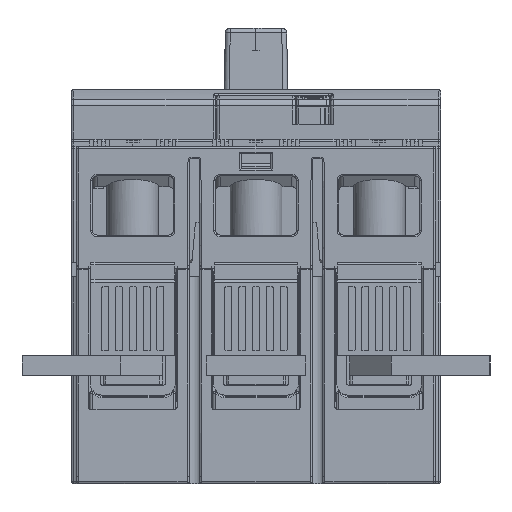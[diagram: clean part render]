
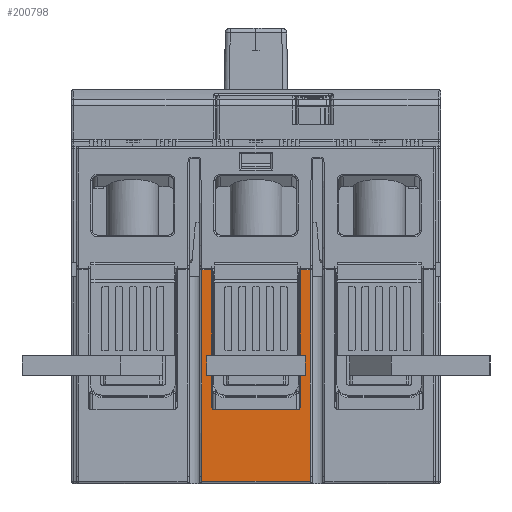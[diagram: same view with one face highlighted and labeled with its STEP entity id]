
A CAD part, front view. The second image highlights one B-rep face of the part: STEP entity #200798.
In plain terms, the highlighted planar face has unit normal (0, -1, 0).
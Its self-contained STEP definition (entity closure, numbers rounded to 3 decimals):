
#9664 = VERTEX_POINT ( 'NONE', #34334 ) ;
#9676 = VERTEX_POINT ( 'NONE', #34344 ) ;
#9678 = VERTEX_POINT ( 'NONE', #34346 ) ;
#9682 = VERTEX_POINT ( 'NONE', #34348 ) ;
#10039 = VERTEX_POINT ( 'NONE', #34598 ) ;
#10054 = VERTEX_POINT ( 'NONE', #34610 ) ;
#10098 = VERTEX_POINT ( 'NONE', #34640 ) ;
#10104 = VERTEX_POINT ( 'NONE', #34644 ) ;
#10170 = VERTEX_POINT ( 'NONE', #34690 ) ;
#10174 = VERTEX_POINT ( 'NONE', #34692 ) ;
#34334 = CARTESIAN_POINT ( 'NONE',  ( -16.933, -70.726, 15.87 ) ) ;
#34344 = CARTESIAN_POINT ( 'NONE',  ( -38.933, -70.726, -27.13 ) ) ;
#34346 = CARTESIAN_POINT ( 'NONE',  ( -38.933, -70.726, 15.87 ) ) ;
#34348 = CARTESIAN_POINT ( 'NONE',  ( -16.933, -70.726, -27.13 ) ) ;
#34598 = CARTESIAN_POINT ( 'NONE',  ( -36.233, -70.726, -12.63 ) ) ;
#34610 = CARTESIAN_POINT ( 'NONE',  ( -19.633, -70.726, -12.63 ) ) ;
#34640 = CARTESIAN_POINT ( 'NONE',  ( -36.933, -70.726, 15.87 ) ) ;
#34644 = CARTESIAN_POINT ( 'NONE',  ( -36.933, -70.726, -11.93 ) ) ;
#34690 = CARTESIAN_POINT ( 'NONE',  ( -18.933, -70.726, 15.87 ) ) ;
#34692 = CARTESIAN_POINT ( 'NONE',  ( -18.933, -70.726, -11.93 ) ) ;
#57103 = EDGE_LOOP ( 'NONE', ( #217471, #217473, #217475, #217477, #217479, #217482, #217484, #217487, #217490, #217493 ) ) ;
#58729 = LINE ( 'NONE', #58740, #59493 ) ;
#58740 = CARTESIAN_POINT ( 'NONE',  ( -38.933, -70.726, 17.37 ) ) ;
#58741 = DIRECTION ( 'NONE',  ( 0., 0., 1. ) ) ;
#58755 = LINE ( 'NONE', #58761, #59489 ) ;
#58761 = CARTESIAN_POINT ( 'NONE',  ( -16.933, -70.726, 17.37 ) ) ;
#58762 = DIRECTION ( 'NONE',  ( 0., 0., -1. ) ) ;
#59489 = VECTOR ( 'NONE', #58762, 1000. ) ;
#59493 = VECTOR ( 'NONE', #58741, 1000. ) ;
#60075 = VECTOR ( 'NONE', #62616, 1000. ) ;
#60135 = CIRCLE ( 'NONE', #60143, 0.7 ) ;
#60140 = VECTOR ( 'NONE', #62813, 1000. ) ;
#60143 = AXIS2_PLACEMENT_3D ( 'NONE', #62836, #62838, #62840 ) ;
#60230 = CIRCLE ( 'NONE', #60233, 0.7 ) ;
#60233 = AXIS2_PLACEMENT_3D ( 'NONE', #63054, #63055, #63056 ) ;
#60237 = VECTOR ( 'NONE', #63076, 1000. ) ;
#60239 = VECTOR ( 'NONE', #63067, 1000. ) ;
#60240 = VECTOR ( 'NONE', #63085, 1000. ) ;
#60244 = VECTOR ( 'NONE', #63092, 1000. ) ;
#62604 = CARTESIAN_POINT ( 'NONE',  ( -65.433, -70.726, -12.63 ) ) ;
#62606 = LINE ( 'NONE', #62604, #60075 ) ;
#62616 = DIRECTION ( 'NONE',  ( 1., 0., 0. ) ) ;
#62800 = LINE ( 'NONE', #62812, #60140 ) ;
#62812 = CARTESIAN_POINT ( 'NONE',  ( -65.433, -70.726, 15.87 ) ) ;
#62813 = DIRECTION ( 'NONE',  ( 1., 0., 0. ) ) ;
#62836 = CARTESIAN_POINT ( 'NONE',  ( -36.233, -70.726, -11.93 ) ) ;
#62838 = DIRECTION ( 'NONE',  ( 0., -1., 0. ) ) ;
#62840 = DIRECTION ( 'NONE',  ( 0., 0., 1. ) ) ;
#63054 = CARTESIAN_POINT ( 'NONE',  ( -19.633, -70.726, -11.93 ) ) ;
#63055 = DIRECTION ( 'NONE',  ( 0., -1., 0. ) ) ;
#63056 = DIRECTION ( 'NONE',  ( 0., 0., -1. ) ) ;
#63058 = LINE ( 'NONE', #63065, #60239 ) ;
#63062 = LINE ( 'NONE', #63069, #60237 ) ;
#63065 = CARTESIAN_POINT ( 'NONE',  ( -65.433, -70.726, 15.87 ) ) ;
#63067 = DIRECTION ( 'NONE',  ( 1., 0., 0. ) ) ;
#63069 = CARTESIAN_POINT ( 'NONE',  ( -18.933, -70.726, 17.37 ) ) ;
#63071 = LINE ( 'NONE', #63078, #60240 ) ;
#63076 = DIRECTION ( 'NONE',  ( 0., 0., 1. ) ) ;
#63078 = CARTESIAN_POINT ( 'NONE',  ( -36.933, -70.726, 17.37 ) ) ;
#63080 = LINE ( 'NONE', #63090, #60244 ) ;
#63085 = DIRECTION ( 'NONE',  ( 0., 0., -1. ) ) ;
#63090 = CARTESIAN_POINT ( 'NONE',  ( -65.433, -70.726, -27.13 ) ) ;
#63092 = DIRECTION ( 'NONE',  ( -1., 0., 0. ) ) ;
#142459 = AXIS2_PLACEMENT_3D ( 'NONE', #145202, #145204, #145205 ) ;
#145179 = FACE_OUTER_BOUND ( 'NONE', #57103, .T. ) ;
#145180 = PLANE ( 'NONE',  #142459 ) ;
#145202 = CARTESIAN_POINT ( 'NONE',  ( -65.433, -70.726, 17.37 ) ) ;
#145204 = DIRECTION ( 'NONE',  ( 0., 1., 0. ) ) ;
#145205 = DIRECTION ( 'NONE',  ( -1., 0., 0. ) ) ;
#169079 = EDGE_CURVE ( 'NONE', #9676, #9678, #58729, .T. ) ;
#169096 = EDGE_CURVE ( 'NONE', #9664, #9682, #58755, .T. ) ;
#170412 = EDGE_CURVE ( 'NONE', #10039, #10054, #62606, .T. ) ;
#170581 = EDGE_CURVE ( 'NONE', #9678, #10098, #62800, .T. ) ;
#170599 = EDGE_CURVE ( 'NONE', #10104, #10039, #60135, .T. ) ;
#170786 = EDGE_CURVE ( 'NONE', #10054, #10174, #60230, .T. ) ;
#170799 = EDGE_CURVE ( 'NONE', #10170, #9664, #63058, .T. ) ;
#170807 = EDGE_CURVE ( 'NONE', #10174, #10170, #63062, .T. ) ;
#170813 = EDGE_CURVE ( 'NONE', #10098, #10104, #63071, .T. ) ;
#170820 = EDGE_CURVE ( 'NONE', #9682, #9676, #63080, .T. ) ;
#200798 = ADVANCED_FACE ( 'NONE', ( #145179 ), #145180, .F. ) ;
#217471 = ORIENTED_EDGE ( 'NONE', *, *, #169096, .F. ) ;
#217473 = ORIENTED_EDGE ( 'NONE', *, *, #170799, .F. ) ;
#217475 = ORIENTED_EDGE ( 'NONE', *, *, #170807, .F. ) ;
#217477 = ORIENTED_EDGE ( 'NONE', *, *, #170786, .F. ) ;
#217479 = ORIENTED_EDGE ( 'NONE', *, *, #170412, .F. ) ;
#217482 = ORIENTED_EDGE ( 'NONE', *, *, #170599, .F. ) ;
#217484 = ORIENTED_EDGE ( 'NONE', *, *, #170813, .F. ) ;
#217487 = ORIENTED_EDGE ( 'NONE', *, *, #170581, .F. ) ;
#217490 = ORIENTED_EDGE ( 'NONE', *, *, #169079, .F. ) ;
#217493 = ORIENTED_EDGE ( 'NONE', *, *, #170820, .F. ) ;
